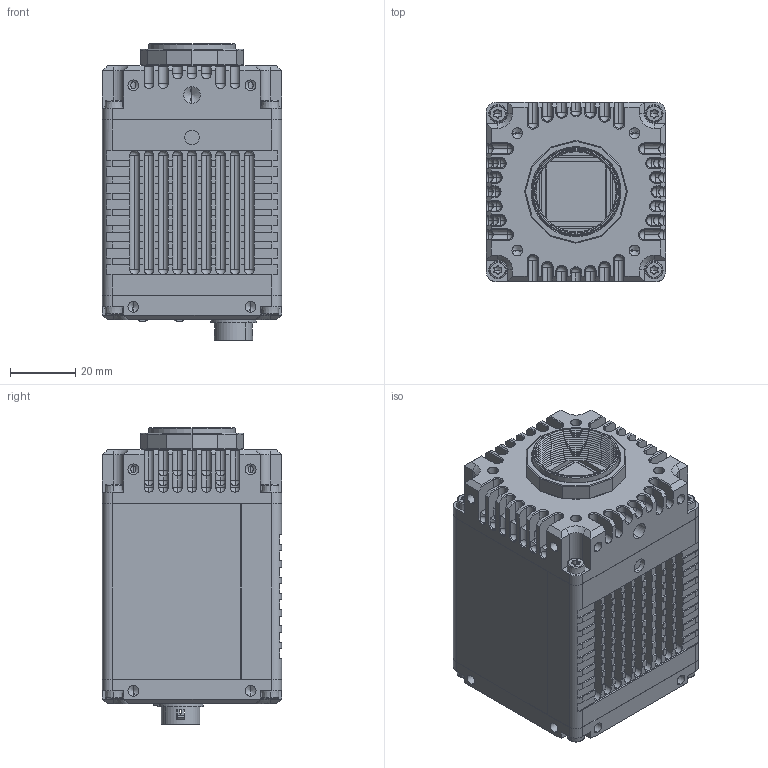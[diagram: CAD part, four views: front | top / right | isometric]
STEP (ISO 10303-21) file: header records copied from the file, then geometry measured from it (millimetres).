
FILE_DESCRIPTION (( 'STEP AP214' ), '1' );
FILE_NAME ('4068050_Goldeye G-030 SWIR TEC1.STEP', '2021-12-06T15:37:59', ( '' ), ( '' ), 'SwSTEP 2.0', 'SolidWorks 2020', '' );
FILE_SCHEMA (( 'AUTOMOTIVE_DESIGN' ));
Length unit declared in the file: millimetre
Products named in the file (1): 4068050_Goldeye G-030 SWIR TEC1
Bounding box: 55.01 x 55 x 91.12 mm (x, y, z)
Surface area: 73949.6 mm2 (no closed solid volume)
Topology: 0 solids, 48 shells, 3584 faces, 9470 edges, 5898 vertices
Faces by surface type: plane 1658, cylinder 1088, bspline 385, cone 321, sphere 98, torus 34
Entity records: 159682 total; most frequent: CARTESIAN_POINT 33638, ORIENTED_EDGE 18532, DIRECTION 16955, EDGE_CURVE 9266, LINE 6005, VECTOR 6005, VERTEX_POINT 5884, AXIS2_PLACEMENT_3D 5475
